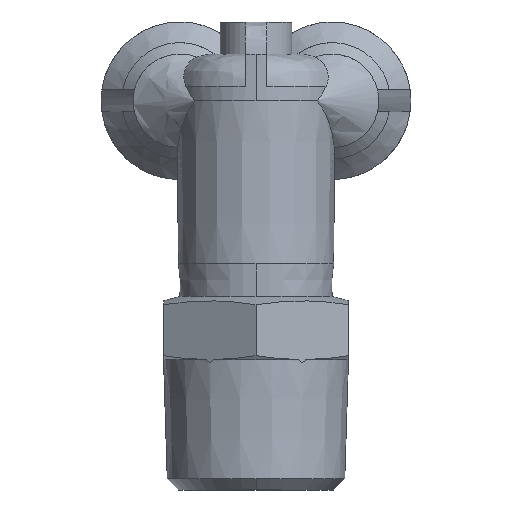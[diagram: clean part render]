
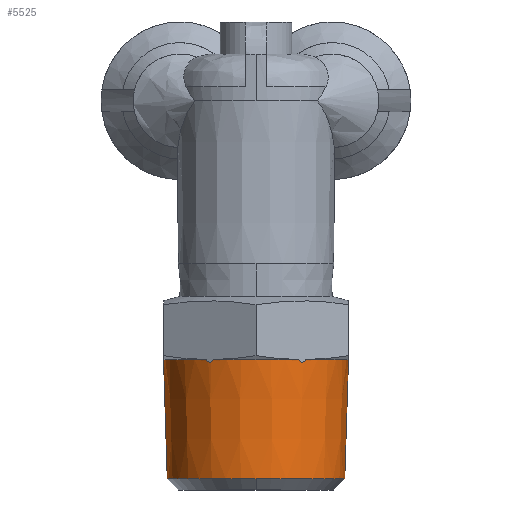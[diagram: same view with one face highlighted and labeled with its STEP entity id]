
A CAD part, left-side view. The second image highlights one B-rep face of the part: STEP entity #5525.
In plain terms, the highlighted conical face has half-angle 1.79 degrees and reference radius 8.508 mm.
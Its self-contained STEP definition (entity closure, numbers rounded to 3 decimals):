
#7 = VERTEX_POINT ( 'NONE', #2592 ) ;
#11 = VECTOR ( 'NONE', #1108, 1000. ) ;
#53 = CARTESIAN_POINT ( 'NONE',  ( 0., 0., 1.014 ) ) ;
#97 = DIRECTION ( 'NONE',  ( 0., 0., 1. ) ) ;
#122 = EDGE_CURVE ( 'NONE', #1277, #958, #1156, .T. ) ;
#138 = VERTEX_POINT ( 'NONE', #960 ) ;
#223 = AXIS2_PLACEMENT_3D ( 'NONE', #516, #97, #3109 ) ;
#415 = CARTESIAN_POINT ( 'NONE',  ( 0., 8.5, 11.758 ) ) ;
#501 = DIRECTION ( 'NONE',  ( 0., 0., 1. ) ) ;
#516 = CARTESIAN_POINT ( 'NONE',  ( 0., 0., 12. ) ) ;
#555 = CARTESIAN_POINT ( 'NONE',  ( -7.541, -3.939, 12. ) ) ;
#864 = EDGE_CURVE ( 'NONE', #1277, #7, #1828, .T. ) ;
#872 = B_SPLINE_CURVE_WITH_KNOTS ( 'NONE', 3,
 ( #1948, #2789, #5415, #2365, #4966, #1930, #4472, #1474, #5327, #4052 ),
 .UNSPECIFIED., .F., .F.,
 ( 4, 2, 2, 2, 4 ),
 ( 0., 0., 0., 0.001, 0.001 ),
 .UNSPECIFIED. ) ;
#875 = CARTESIAN_POINT ( 'NONE',  ( -0.359, 8.5, 12. ) ) ;
#891 = CIRCLE ( 'NONE', #3439, 8.508 ) ;
#958 = VERTEX_POINT ( 'NONE', #2503 ) ;
#960 = CARTESIAN_POINT ( 'NONE',  ( 0., -8.5, 11.758 ) ) ;
#999 = CARTESIAN_POINT ( 'NONE',  ( -7.182, -4.561, 12. ) ) ;
#1084 = CIRCLE ( 'NONE', #2758, 8.164 ) ;
#1089 = FACE_OUTER_BOUND ( 'NONE', #3776, .T. ) ;
#1108 = DIRECTION ( 'NONE',  ( 0., 0.031, 1. ) ) ;
#1124 = DIRECTION ( 'NONE',  ( -0.998, 0.065, 0. ) ) ;
#1156 = LINE ( 'NONE', #1322, #11 ) ;
#1181 = CARTESIAN_POINT ( 'NONE',  ( -0.359, -8.5, 12. ) ) ;
#1201 = EDGE_CURVE ( 'NONE', #4367, #1417, #891, .T. ) ;
#1277 = VERTEX_POINT ( 'NONE', #2258 ) ;
#1285 = CARTESIAN_POINT ( 'NONE',  ( -0.264, 8.5, 11.883 ) ) ;
#1315 = EDGE_CURVE ( 'NONE', #4447, #2769, #1625, .T. ) ;
#1322 = CARTESIAN_POINT ( 'NONE',  ( 0., 8.508, 12. ) ) ;
#1417 = VERTEX_POINT ( 'NONE', #875 ) ;
#1440 = ORIENTED_EDGE ( 'NONE', *, *, #1201, .T. ) ;
#1474 = CARTESIAN_POINT ( 'NONE',  ( -7.229, 4.479, 11.883 ) ) ;
#1491 = AXIS2_PLACEMENT_3D ( 'NONE', #4231, #1668, #4683 ) ;
#1625 = CIRCLE ( 'NONE', #4596, 8.508 ) ;
#1641 = EDGE_CURVE ( 'NONE', #2296, #4367, #872, .T. ) ;
#1650 = DIRECTION ( 'NONE',  ( -0.998, 0.065, 0. ) ) ;
#1656 = CARTESIAN_POINT ( 'NONE',  ( -7.182, 4.561, 12. ) ) ;
#1661 = DIRECTION ( 'NONE',  ( 0., 0., -1. ) ) ;
#1668 = DIRECTION ( 'NONE',  ( 0., 0., -1. ) ) ;
#1698 = CARTESIAN_POINT ( 'NONE',  ( 0., 0., 12. ) ) ;
#1707 = ORIENTED_EDGE ( 'NONE', *, *, #2763, .F. ) ;
#1714 = EDGE_CURVE ( 'NONE', #7, #3380, #1084, .T. ) ;
#1723 = CARTESIAN_POINT ( 'NONE',  ( -0.359, 8.5, 12. ) ) ;
#1735 = CARTESIAN_POINT ( 'NONE',  ( -0.359, -8.5, 12. ) ) ;
#1770 = EDGE_CURVE ( 'NONE', #2146, #2769, #2454, .T. ) ;
#1827 = CONICAL_SURFACE ( 'NONE', #223, 8.508, 0.031 ) ;
#1828 = CIRCLE ( 'NONE', #2678, 8.164 ) ;
#1837 = ORIENTED_EDGE ( 'NONE', *, *, #1714, .T. ) ;
#1849 = CARTESIAN_POINT ( 'NONE',  ( -7.435, -4.122, 11.793 ) ) ;
#1862 = DIRECTION ( 'NONE',  ( 0., 0., 1. ) ) ;
#1883 = CARTESIAN_POINT ( 'NONE',  ( -7.288, -4.376, 11.791 ) ) ;
#1921 = CARTESIAN_POINT ( 'NONE',  ( -7.229, -4.479, 11.883 ) ) ;
#1930 = CARTESIAN_POINT ( 'NONE',  ( -7.324, 4.314, 11.758 ) ) ;
#1948 = CARTESIAN_POINT ( 'NONE',  ( -7.541, 3.939, 12. ) ) ;
#1965 = ORIENTED_EDGE ( 'NONE', *, *, #122, .F. ) ;
#2044 = CARTESIAN_POINT ( 'NONE',  ( -0.147, -8.5, 11.792 ) ) ;
#2146 = VERTEX_POINT ( 'NONE', #2714 ) ;
#2149 = LINE ( 'NONE', #5532, #3162 ) ;
#2258 = CARTESIAN_POINT ( 'NONE',  ( 0., 8.164, 1.014 ) ) ;
#2271 = B_SPLINE_CURVE_WITH_KNOTS ( 'NONE', 3,
 ( #1181, #4176, #4623, #2044, #5083, #2476 ),
 .UNSPECIFIED., .F., .F.,
 ( 4, 2, 4 ),
 ( 0., 0., 0. ),
 .UNSPECIFIED. ) ;
#2296 = VERTEX_POINT ( 'NONE', #4536 ) ;
#2328 = CARTESIAN_POINT ( 'NONE',  ( -7.399, -4.184, 11.758 ) ) ;
#2350 = DIRECTION ( 'NONE',  ( -0.998, 0.065, 0. ) ) ;
#2356 = EDGE_CURVE ( 'NONE', #3380, #138, #2149, .T. ) ;
#2365 = CARTESIAN_POINT ( 'NONE',  ( -7.435, 4.122, 11.793 ) ) ;
#2442 = CARTESIAN_POINT ( 'NONE',  ( -7.182, -4.561, 12. ) ) ;
#2454 = B_SPLINE_CURVE_WITH_KNOTS ( 'NONE', 3,
 ( #555, #5390, #3973, #1849, #2328, #2727, #1883, #1921, #3124, #999 ),
 .UNSPECIFIED., .F., .F.,
 ( 4, 2, 2, 2, 4 ),
 ( 0., 0., 0., 0.001, 0.001 ),
 .UNSPECIFIED. ) ;
#2476 = CARTESIAN_POINT ( 'NONE',  ( 0., -8.5, 11.758 ) ) ;
#2503 = CARTESIAN_POINT ( 'NONE',  ( 0., 8.5, 11.758 ) ) ;
#2592 = CARTESIAN_POINT ( 'NONE',  ( -8.164, 0., 1.014 ) ) ;
#2611 = DIRECTION ( 'NONE',  ( 1., 0., 0. ) ) ;
#2678 = AXIS2_PLACEMENT_3D ( 'NONE', #53, #501, #1124 ) ;
#2685 = DIRECTION ( 'NONE',  ( 0., 0., -1. ) ) ;
#2706 = ORIENTED_EDGE ( 'NONE', *, *, #1315, .T. ) ;
#2712 = ORIENTED_EDGE ( 'NONE', *, *, #1641, .T. ) ;
#2714 = CARTESIAN_POINT ( 'NONE',  ( -7.541, -3.939, 12. ) ) ;
#2727 = CARTESIAN_POINT ( 'NONE',  ( -7.324, -4.314, 11.758 ) ) ;
#2728 = CARTESIAN_POINT ( 'NONE',  ( 0., 0., 12. ) ) ;
#2758 = AXIS2_PLACEMENT_3D ( 'NONE', #4062, #1862, #2350 ) ;
#2763 = EDGE_CURVE ( 'NONE', #4447, #138, #2271, .T. ) ;
#2769 = VERTEX_POINT ( 'NONE', #2442 ) ;
#2789 = CARTESIAN_POINT ( 'NONE',  ( -7.518, 3.978, 11.94 ) ) ;
#2819 = B_SPLINE_CURVE_WITH_KNOTS ( 'NONE', 3,
 ( #415, #2983, #3842, #1285, #4282, #1723 ),
 .UNSPECIFIED., .F., .F.,
 ( 4, 2, 4 ),
 ( 0., 0.001, 0.001 ),
 .UNSPECIFIED. ) ;
#2973 = ORIENTED_EDGE ( 'NONE', *, *, #864, .T. ) ;
#2983 = CARTESIAN_POINT ( 'NONE',  ( -0.075, 8.5, 11.758 ) ) ;
#3039 = CIRCLE ( 'NONE', #1491, 8.508 ) ;
#3109 = DIRECTION ( 'NONE',  ( 0., -1., 0. ) ) ;
#3124 = CARTESIAN_POINT ( 'NONE',  ( -7.204, -4.522, 11.94 ) ) ;
#3162 = VECTOR ( 'NONE', #5333, 1000. ) ;
#3380 = VERTEX_POINT ( 'NONE', #4568 ) ;
#3439 = AXIS2_PLACEMENT_3D ( 'NONE', #2728, #2685, #2611 ) ;
#3579 = ORIENTED_EDGE ( 'NONE', *, *, #3743, .F. ) ;
#3743 = EDGE_CURVE ( 'NONE', #958, #1417, #2819, .T. ) ;
#3776 = EDGE_LOOP ( 'NONE', ( #1965, #2973, #1837, #3970, #1707, #2706, #4586, #5179, #2712, #1440, #3579 ) ) ;
#3842 = CARTESIAN_POINT ( 'NONE',  ( -0.146, 8.5, 11.792 ) ) ;
#3970 = ORIENTED_EDGE ( 'NONE', *, *, #2356, .T. ) ;
#3973 = CARTESIAN_POINT ( 'NONE',  ( -7.494, -4.02, 11.884 ) ) ;
#4052 = CARTESIAN_POINT ( 'NONE',  ( -7.182, 4.561, 12. ) ) ;
#4062 = CARTESIAN_POINT ( 'NONE',  ( 0., 0., 1.014 ) ) ;
#4176 = CARTESIAN_POINT ( 'NONE',  ( -0.314, -8.5, 11.94 ) ) ;
#4231 = CARTESIAN_POINT ( 'NONE',  ( 0., 0., 12. ) ) ;
#4282 = CARTESIAN_POINT ( 'NONE',  ( -0.314, 8.5, 11.94 ) ) ;
#4367 = VERTEX_POINT ( 'NONE', #1656 ) ;
#4447 = VERTEX_POINT ( 'NONE', #1735 ) ;
#4472 = CARTESIAN_POINT ( 'NONE',  ( -7.288, 4.376, 11.791 ) ) ;
#4536 = CARTESIAN_POINT ( 'NONE',  ( -7.541, 3.939, 12. ) ) ;
#4568 = CARTESIAN_POINT ( 'NONE',  ( 0., -8.164, 1.014 ) ) ;
#4586 = ORIENTED_EDGE ( 'NONE', *, *, #1770, .F. ) ;
#4596 = AXIS2_PLACEMENT_3D ( 'NONE', #1698, #1661, #1650 ) ;
#4623 = CARTESIAN_POINT ( 'NONE',  ( -0.265, -8.5, 11.884 ) ) ;
#4683 = DIRECTION ( 'NONE',  ( -0.998, 0.065, 0. ) ) ;
#4966 = CARTESIAN_POINT ( 'NONE',  ( -7.399, 4.184, 11.758 ) ) ;
#5083 = CARTESIAN_POINT ( 'NONE',  ( -0.075, -8.5, 11.758 ) ) ;
#5179 = ORIENTED_EDGE ( 'NONE', *, *, #5389, .T. ) ;
#5327 = CARTESIAN_POINT ( 'NONE',  ( -7.204, 4.522, 11.94 ) ) ;
#5333 = DIRECTION ( 'NONE',  ( 0., -0.031, 1. ) ) ;
#5389 = EDGE_CURVE ( 'NONE', #2146, #2296, #3039, .T. ) ;
#5390 = CARTESIAN_POINT ( 'NONE',  ( -7.518, -3.978, 11.94 ) ) ;
#5415 = CARTESIAN_POINT ( 'NONE',  ( -7.494, 4.02, 11.884 ) ) ;
#5525 = ADVANCED_FACE ( '120', ( #1089 ), #1827, .T. ) ;
#5532 = CARTESIAN_POINT ( 'NONE',  ( 0., -8.508, 12. ) ) ;
